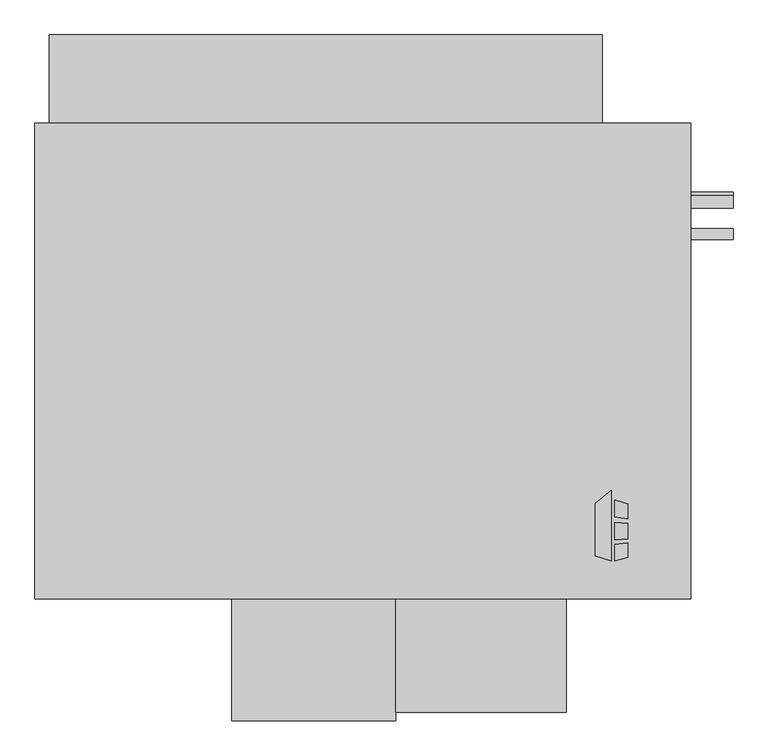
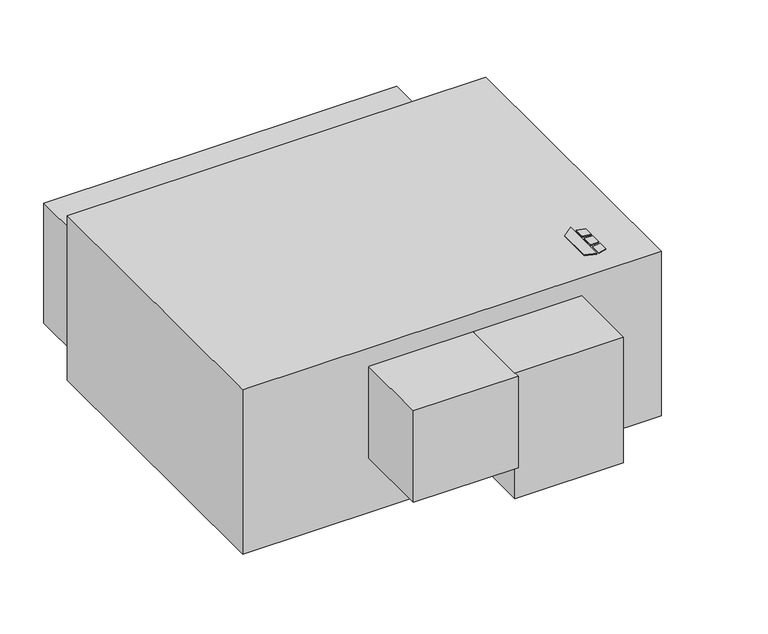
"""IFC4 building model written with IfcOpenShell, lengths in millimetres: proxy geometry, Horizontal_Direct_Drive_Blower_Coil_Unit_-_HDY_-_IEC_-_2-Pipe_Cool-EHeat_RH_2022 : Size 16 - 460v/60Hz/3Ph - 8 Row 16.0kW."""

from ifc_helpers import new_model, si_unit, point, frame, frame_2d, origin, origin_with_axes, place, context, project, spatial, polyline, circle_curve, trimmed, segment, composite_curve, outline, extrude, source, transform, mapped, element, save


def mechanical_equipment_24ed6f7e(model_context):
    return source(origin(), model_context, "Body", "SweptSolid", [
        extrude(outline(polyline([(61.6019761, -274.0078476), (94.1602728, -248.5705184), (94.1602728, -390.525), (61.6019761, -380.3054201), (61.6019761, -274.0078476)])), origin_with_axes(), (0.0, 0.0, 1.0), 3.175),
        extrude(outline(polyline([(100.9186058, -301.879852), (100.9186058, -267.3999379), (127.0, -275.5865115), (127.0, -305.0822446), (100.9186058, -301.879852)])), origin_with_axes(), (0.0, 0.0, 1.0), 3.175),
        extrude(outline(polyline([(127.0, -383.5365115), (100.9186058, -390.525), (100.9186058, -357.3036996), (127.0, -353.7618564), (127.0, -383.5365115)])), origin_with_axes(), (0.0, 0.0, 1.0), 3.175),
        extrude(outline(polyline([(127.0, -314.1638277), (127.0, -345.413983), (100.9186058, -348.155248), (100.9186058, -312.2975378), (127.0, -314.1638277)])), origin_with_axes(), (0.0, 0.0, 1.0), 3.175),
        extrude(outline(polyline([(254.0, 492.125), (254.0, -466.725), (-1066.8, -466.725), (-1066.8, 492.125), (254.0, 492.125)])), frame((0.0, 0.0, -549.2558174), z_axis=(0.0, 0.0, 1.0), x_axis=(1.0, 0.0, 0.0)), (0.0, 0.0, 1.0), 549.2558174),
        extrude(outline(polyline([(3.175, -695.325), (-339.725, -695.325), (-339.725, -466.725), (3.175, -466.725), (3.175, -695.325)])), frame((0.0, 0.0, -479.4058174), z_axis=(0.0, 0.0, 1.0), x_axis=(1.0, 0.0, 0.0)), (0.0, 0.0, 1.0), 419.1),
        extrude(outline(composite_curve([segment(trimmed(circle_curve(frame_2d((333.375, -177.8)), 12.7), [point((346.075, -177.8))], [point((320.675, -177.8))], False, "CARTESIAN"), True, "CONTINUOUS"), segment(trimmed(circle_curve(frame_2d((333.375, -177.8)), 12.7), [point((320.675, -177.8))], [point((346.075, -177.8))], False, "CARTESIAN"), True, "CONTINUOUS")], self_intersect=False)), frame((254.0, 0.0, 0.0), z_axis=(1.0, 0.0, 0.0), x_axis=(0.0, 1.0, 0.0)), (0.0, 0.0, 1.0), 85.2932),
        extrude(outline(composite_curve([segment(trimmed(circle_curve(frame_2d((340.130856, -422.2558174)), 12.7), [point((352.830856, -422.2558174))], [point((327.430856, -422.2558174))], False, "CARTESIAN"), True, "CONTINUOUS"), segment(trimmed(circle_curve(frame_2d((340.130856, -422.2558174)), 12.7), [point((327.430856, -422.2558174))], [point((352.830856, -422.2558174))], False, "CARTESIAN"), True, "CONTINUOUS")], self_intersect=False)), frame((254.0, 0.0, 0.0), z_axis=(1.0, 0.0, 0.0), x_axis=(0.0, 1.0, 0.0)), (0.0, 0.0, 1.0), 85.2932),
        extrude(outline(composite_curve([segment(trimmed(circle_curve(frame_2d((268.4630494, -504.8058174)), 11.1125), [point((279.5755494, -504.8058174))], [point((257.3505494, -504.8058174))], False, "CARTESIAN"), True, "CONTINUOUS"), segment(trimmed(circle_curve(frame_2d((268.4630494, -504.8058174)), 11.1125), [point((257.3505494, -504.8058174))], [point((279.5755494, -504.8058174))], False, "CARTESIAN"), True, "CONTINUOUS")], self_intersect=False)), frame((254.0, 0.0, 0.0), z_axis=(1.0, 0.0, 0.0), x_axis=(0.0, 1.0, 0.0)), (0.0, 0.0, 1.0), 85.2932),
        extrude(outline(polyline([(-1038.225, 669.925), (76.2, 669.925), (76.2, 492.125), (-1038.225, 492.125), (-1038.225, 669.925)])), frame((0.0, 0.0, -476.2308174), z_axis=(0.0, 0.0, 1.0), x_axis=(1.0, 0.0, 0.0)), (0.0, 0.0, 1.0), 400.05),
        extrude(outline(polyline([(-339.725, -712.7875), (-669.925, -712.7875), (-669.925, -466.725), (-339.725, -466.725), (-339.725, -712.7875)])), frame((0.0, 0.0, -365.1058174), z_axis=(0.0, 0.0, 1.0), x_axis=(1.0, 0.0, 0.0)), (0.0, 0.0, 1.0), 304.8),
    ])


if __name__ == "__main__":
    model = new_model("IFC4")
    model_context = context("Model", 3, world=origin())
    ifc_project = project(units=[si_unit("LENGTHUNIT", "METRE", prefix="MILLI")], contexts=[model_context])
    site = spatial("IfcSite", under=ifc_project)
    building = spatial("IfcBuilding", under=site)
    placement = place(None, origin())
    mechanical_equipment_shape = mechanical_equipment_24ed6f7e(model_context)
    element("IfcBuildingElementProxy", 1, Name="Horizontal_Direct_Drive_Blower_Coil_Unit_-_HDY_-_IEC_-_2-Pipe_Cool-EHeat_RH_2022 : Size 16 - 460v/60Hz/3Ph - 8 Row 16.0kW", ObjectType="Horizontal_Direct_Drive_Blower_Coil_Unit_-_HDY_-_IEC_-_2-Pipe_Cool-EHeat_RH_2022 : Size 16 - 460v/60Hz/3Ph - 8 Row 16.0kW", at=placement, inside=building, context=model_context, shape_type="MappedRepresentation", body=[
        mapped(mechanical_equipment_shape, transform((0.0, 0.0, 0.0), x_axis=(1.0, 0.0, 0.0), y_axis=(0.0, 1.0, 0.0), z_axis=(0.0, 0.0, 1.0))),
    ])
    save(model, "model.ifc")
